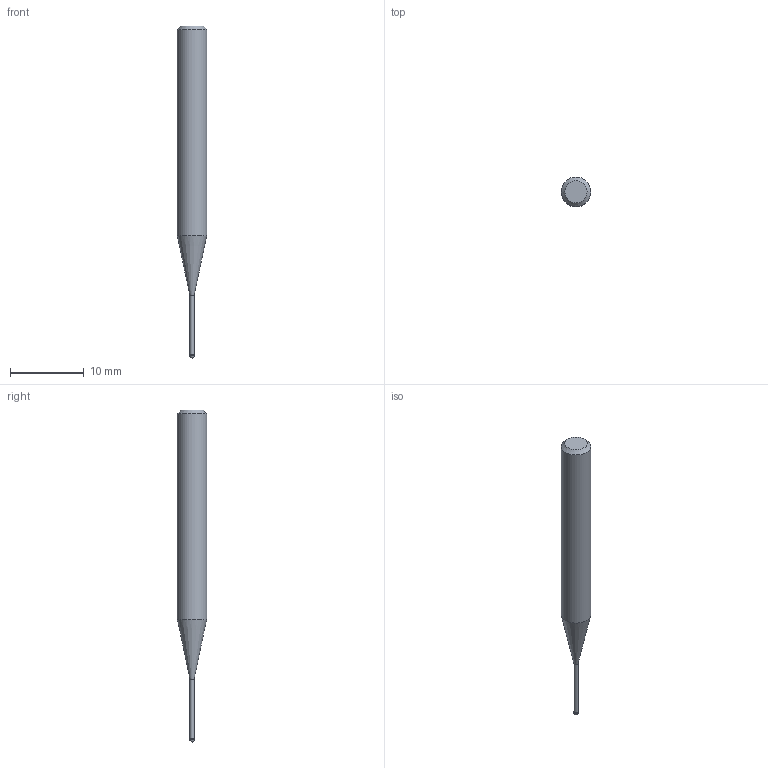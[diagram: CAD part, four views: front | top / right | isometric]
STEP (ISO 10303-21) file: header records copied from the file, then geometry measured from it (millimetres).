
FILE_DESCRIPTION((''),'2;1');
FILE_NAME('C:\Users\nsx150\AppData\Local\Temp\Mastercam 2021\3SYKECWX22\TEMP.step','2021-04-22T10:01:10',(''),(''),'STEP Write','Mastercam 2021 ... CNC Software, Inc.','');
FILE_SCHEMA(('AUTOMOTIVE_DESIGN'));
Length unit declared in the file: millimetre
Products named in the file (1): None
Bounding box: 4 x 4 x 45 mm (x, y, z)
Volume: 396.9 mm3; surface area: 440.3 mm2
Topology: 2 solids, 2 shells, 9 faces, 14 edges, 8 vertices
Faces by surface type: plane 3, cylinder 3, cone 2, sphere 1
Full cylindrical faces by diameter (mm): 0.56 x1, 0.6 x1, 4 x1
Entity records: 211 total; most frequent: DIRECTION 36, CARTESIAN_POINT 25, AXIS2_PLACEMENT_3D 18, ORIENTED_EDGE 14, EDGE_LOOP 14, STYLED_ITEM 12, ADVANCED_FACE 9, FACE_BOUND 8
